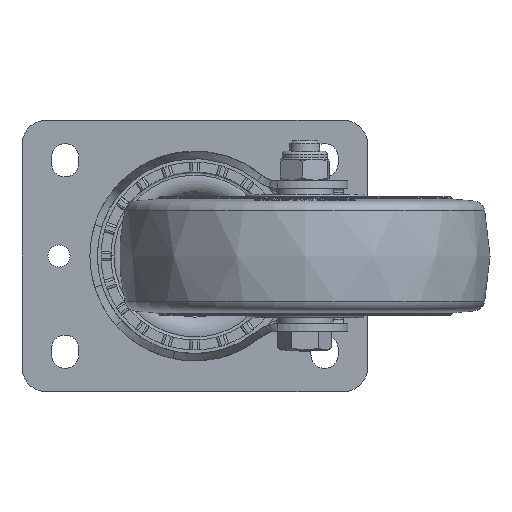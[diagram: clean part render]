
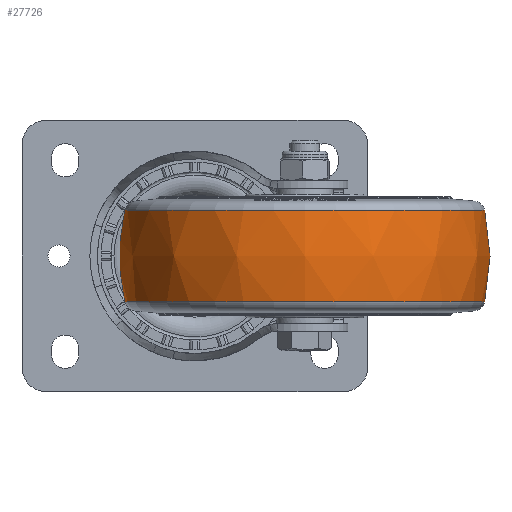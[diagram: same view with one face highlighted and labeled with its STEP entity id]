
A CAD part, front view. The second image highlights one B-rep face of the part: STEP entity #27726.
In plain terms, the highlighted free-form (B-spline) face has degree [2, 2] with [3, 9] control points.
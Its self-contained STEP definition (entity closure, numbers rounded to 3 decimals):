
#95=(
BOUNDED_SURFACE()
B_SPLINE_SURFACE(2,2,((#48560,#48561,#48562,#48563,#48564,#48565,#48566,
#48567,#48568),(#48569,#48570,#48571,#48572,#48573,#48574,#48575,#48576,
#48577),(#48578,#48579,#48580,#48581,#48582,#48583,#48584,#48585,#48586)),
 .UNSPECIFIED.,.F.,.T.,.F.)
B_SPLINE_SURFACE_WITH_KNOTS((3,3),(3,2,2,2,3),(-0.233,0.233),
(-3.142,-1.571,0.,1.571,3.142),
 .UNSPECIFIED.)
GEOMETRIC_REPRESENTATION_ITEM()
RATIONAL_B_SPLINE_SURFACE(((1.,0.707,1.,0.707,1.,
0.707,1.,0.707,1.),(0.973,0.688,
0.973,0.688,0.973,0.688,0.973,
0.688,0.973),(1.,0.707,1.,0.707,
1.,0.707,1.,0.707,1.)))
REPRESENTATION_ITEM('')
SURFACE()
);
#5944=FACE_OUTER_BOUND('',#7710,.T.);
#7710=EDGE_LOOP('',(#21923,#21924,#21925,#21926));
#8870=CIRCLE('',#29345,72.847);
#8871=CIRCLE('',#29346,72.847);
#8872=CIRCLE('',#29347,80.);
#12241=VERTEX_POINT('',#48557);
#12242=VERTEX_POINT('',#48587);
#15636=EDGE_CURVE('',#12241,#12241,#8870,.T.);
#15637=EDGE_CURVE('',#12242,#12242,#8871,.T.);
#15638=EDGE_CURVE('',#12242,#12241,#8872,.T.);
#21923=ORIENTED_EDGE('',*,*,#15637,.F.);
#21924=ORIENTED_EDGE('',*,*,#15638,.T.);
#21925=ORIENTED_EDGE('',*,*,#15636,.F.);
#21926=ORIENTED_EDGE('',*,*,#15638,.F.);
#27726=ADVANCED_FACE('',(#5944),#95,.F.);
#29345=AXIS2_PLACEMENT_3D('',#48559,#32910,#32911);
#29346=AXIS2_PLACEMENT_3D('',#48588,#32912,#32913);
#29347=AXIS2_PLACEMENT_3D('',#48589,#32914,#32915);
#32910=DIRECTION('center_axis',(0.,0.,
-1.));
#32911=DIRECTION('ref_axis',(0.,1.,0.));
#32912=DIRECTION('center_axis',(0.,0.,
1.));
#32913=DIRECTION('ref_axis',(0.,1.,0.));
#32914=DIRECTION('center_axis',(0.,-1.,0.));
#32915=DIRECTION('ref_axis',(-1.,0.,0.));
#48557=CARTESIAN_POINT('',(-28.347,-115.001,-18.435));
#48559=CARTESIAN_POINT('Origin',(44.5,-115.001,-18.435));
#48560=CARTESIAN_POINT('Ctrl Pts',(-28.347,-115.001,
18.435));
#48561=CARTESIAN_POINT('Ctrl Pts',(-28.347,-42.154,
18.435));
#48562=CARTESIAN_POINT('Ctrl Pts',(44.5,-42.154,18.435));
#48563=CARTESIAN_POINT('Ctrl Pts',(117.347,-42.154,18.435));
#48564=CARTESIAN_POINT('Ctrl Pts',(117.347,-115.001,18.435));
#48565=CARTESIAN_POINT('Ctrl Pts',(117.347,-187.848,18.435));
#48566=CARTESIAN_POINT('Ctrl Pts',(44.5,-187.848,18.435));
#48567=CARTESIAN_POINT('Ctrl Pts',(-28.347,-187.848,
18.435));
#48568=CARTESIAN_POINT('Ctrl Pts',(-28.347,-115.001,
18.435));
#48569=CARTESIAN_POINT('Ctrl Pts',(-32.713,-115.001,
0.));
#48570=CARTESIAN_POINT('Ctrl Pts',(-32.713,-37.789,
0.));
#48571=CARTESIAN_POINT('Ctrl Pts',(44.5,-37.789,0.));
#48572=CARTESIAN_POINT('Ctrl Pts',(121.713,-37.789,0.));
#48573=CARTESIAN_POINT('Ctrl Pts',(121.713,-115.001,0.));
#48574=CARTESIAN_POINT('Ctrl Pts',(121.713,-192.214,0.));
#48575=CARTESIAN_POINT('Ctrl Pts',(44.5,-192.214,0.));
#48576=CARTESIAN_POINT('Ctrl Pts',(-32.713,-192.214,
0.));
#48577=CARTESIAN_POINT('Ctrl Pts',(-32.713,-115.001,
0.));
#48578=CARTESIAN_POINT('Ctrl Pts',(-28.347,-115.001,
-18.435));
#48579=CARTESIAN_POINT('Ctrl Pts',(-28.347,-42.154,
-18.435));
#48580=CARTESIAN_POINT('Ctrl Pts',(44.5,-42.154,-18.435));
#48581=CARTESIAN_POINT('Ctrl Pts',(117.347,-42.154,-18.435));
#48582=CARTESIAN_POINT('Ctrl Pts',(117.347,-115.001,-18.435));
#48583=CARTESIAN_POINT('Ctrl Pts',(117.347,-187.848,-18.435));
#48584=CARTESIAN_POINT('Ctrl Pts',(44.5,-187.848,-18.435));
#48585=CARTESIAN_POINT('Ctrl Pts',(-28.347,-187.848,
-18.435));
#48586=CARTESIAN_POINT('Ctrl Pts',(-28.347,-115.001,
-18.435));
#48587=CARTESIAN_POINT('',(-28.347,-115.001,18.435));
#48588=CARTESIAN_POINT('Origin',(44.5,-115.001,18.435));
#48589=CARTESIAN_POINT('Origin',(49.5,-115.001,0.));
